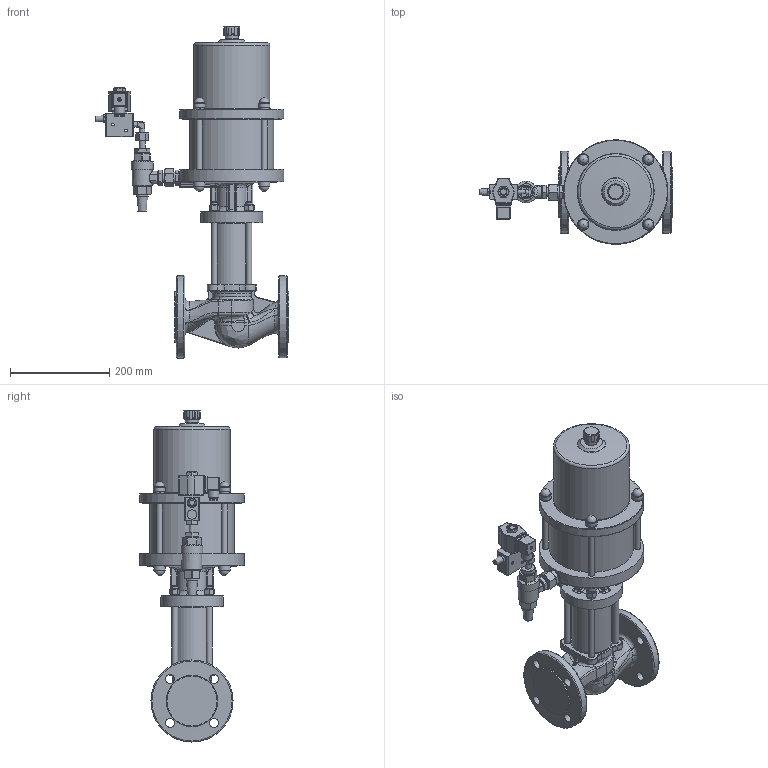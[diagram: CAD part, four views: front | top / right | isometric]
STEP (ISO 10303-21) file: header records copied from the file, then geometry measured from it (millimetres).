
FILE_DESCRIPTION((''),'2;1');
FILE_NAME('G:\CAD-Download\EPVA\40-4-EPVA\DN 20N (50)\40-4-EPVA 20N-4.stp','2010-11-15T14:56:47',('da'),(''),'Autodesk Inventor 2008','Autodesk Inventor 2008','');
FILE_SCHEMA(('AUTOMOTIVE_DESIGN { 1 0 10303 214 1 1 1 1 }'));
Length unit declared in the file: millimetre
Products named in the file (1): Bauteil17
Bounding box: 389.8 x 210 x 667.85 mm (x, y, z)
Volume: 9757186.2 mm3; surface area: 591159.8 mm2
Topology: 1 solids, 1 shells, 1121 faces, 2774 edges, 1700 vertices
Faces by surface type: plane 394, bspline 297, cylinder 243, cone 114, torus 48, sphere 25
Full cylindrical faces by diameter (mm): 5.5 x1, 6.4 x1, 6.9 x1, 9.4 x4, 10.957 x1, 10.997 x1, 12 x17, 13 x4, 14 x1, 18 x5, 20.15 x2, 21.2 x4, 21.5 x1, 23 x9, 24.376 x1, 26 x1, 26.6 x1, 27 x3, 32.2 x1, 40 x1, 44 x1, 65 x1, 80 x1, 125 x1, 153 x1, 165 x1, 170 x1, 210 x2
Entity records: 63664 total; most frequent: CARTESIAN_POINT 39322, ORIENTED_EDGE 4910, DIRECTION 4252, EDGE_CURVE 2455, AXIS2_PLACEMENT_3D 1733, VERTEX_POINT 1593, EDGE_LOOP 1433, FACE_OUTER_BOUND 1121
